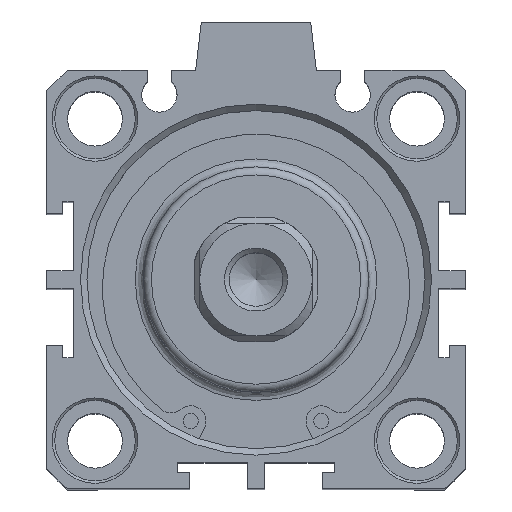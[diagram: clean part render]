
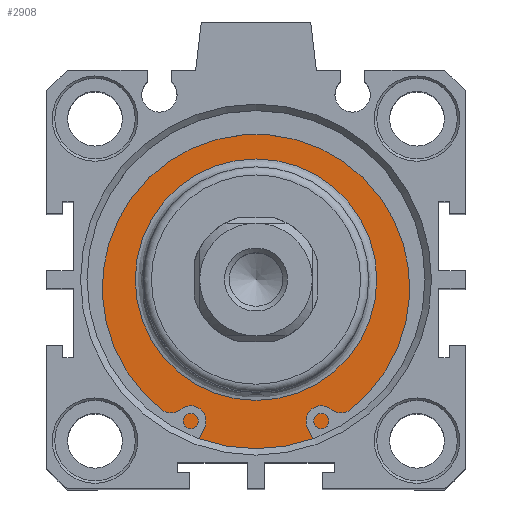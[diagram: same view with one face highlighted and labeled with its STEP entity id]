
A CAD part, top view. The second image highlights one B-rep face of the part: STEP entity #2908.
In plain terms, the highlighted planar face has unit normal (0, 0, 1).
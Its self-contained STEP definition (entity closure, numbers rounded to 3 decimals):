
#2857=CARTESIAN_POINT('',(0.598,16.555,72.4));
#2858=VERTEX_POINT('',#2857);
#2859=CARTESIAN_POINT('',(0.598,1.555,72.4));
#2860=DIRECTION('',(0.0,0.0,1.0));
#2861=DIRECTION('',(0.0,-1.0,0.0));
#2862=AXIS2_PLACEMENT_3D('',#2859,#2860,#2861);
#2863=CIRCLE('',#2862,15.0);
#2864=EDGE_CURVE('',#2858,#2858,#2863,.T.);
#2889=CARTESIAN_POINT('',(0.598,19.055,72.4));
#2890=DIRECTION('',(0.0,0.0,1.0));
#2891=DIRECTION('',(1.0,0.0,0.0));
#2892=AXIS2_PLACEMENT_3D('',#2889,#2890,#2891);
#2893=PLANE('',#2892);
#2894=CARTESIAN_POINT('',(0.598,22.555,72.4));
#2895=VERTEX_POINT('',#2894);
#2896=CARTESIAN_POINT('',(0.598,1.555,72.4));
#2897=DIRECTION('',(0.0,0.0,-1.0));
#2898=DIRECTION('',(0.0,1.0,0.0));
#2899=AXIS2_PLACEMENT_3D('',#2896,#2897,#2898);
#2900=CIRCLE('',#2899,21.);
#2901=EDGE_CURVE('',#2895,#2895,#2900,.T.);
#2902=ORIENTED_EDGE('',*,*,#2901,.F.);
#2903=EDGE_LOOP('',(#2902));
#2904=FACE_OUTER_BOUND('',#2903,.T.);
#2905=ORIENTED_EDGE('',*,*,#2864,.F.);
#2906=EDGE_LOOP('',(#2905));
#2907=FACE_BOUND('',#2906,.T.);
#2908=ADVANCED_FACE('',(#2904,#2907),#2893,.T.);
